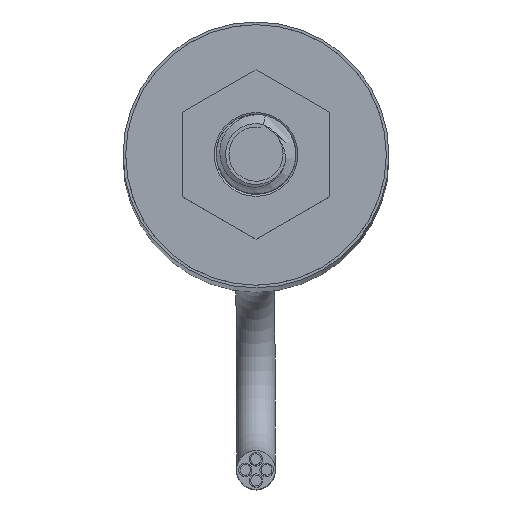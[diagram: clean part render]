
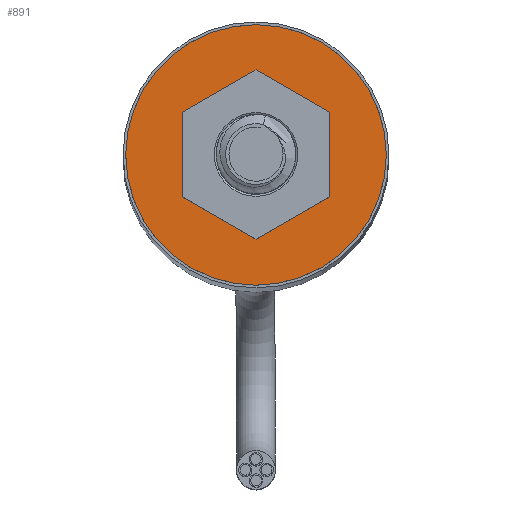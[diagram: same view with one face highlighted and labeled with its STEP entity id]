
A CAD part, top view. The second image highlights one B-rep face of the part: STEP entity #891.
In plain terms, the highlighted planar face has unit normal (0, 0, 1).
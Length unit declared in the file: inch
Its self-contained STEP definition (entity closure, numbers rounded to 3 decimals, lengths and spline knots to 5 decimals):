
#65=FACE_BOUND('',#181,.T.);
#83=PLANE('',#1126);
#118=FACE_OUTER_BOUND('',#180,.T.);
#180=EDGE_LOOP('',(#604));
#181=EDGE_LOOP('',(#605));
#352=CIRCLE('',#1121,0.11);
#355=CIRCLE('',#1125,0.245);
#402=VERTEX_POINT('',#1524);
#405=VERTEX_POINT('',#1532);
#478=EDGE_CURVE('',#402,#402,#352,.T.);
#483=EDGE_CURVE('',#405,#405,#355,.T.);
#604=ORIENTED_EDGE('',*,*,#483,.T.);
#605=ORIENTED_EDGE('',*,*,#478,.T.);
#891=ADVANCED_FACE('',(#118,#65),#83,.T.);
#1121=AXIS2_PLACEMENT_3D('',#1525,#1250,#1251);
#1125=AXIS2_PLACEMENT_3D('',#1534,#1260,#1261);
#1126=AXIS2_PLACEMENT_3D('',#1535,#1262,#1263);
#1250=DIRECTION('center_axis',(0.,0.,
-1.));
#1251=DIRECTION('ref_axis',(1.,-0.001,0.));
#1260=DIRECTION('center_axis',(0.,0.,
1.));
#1261=DIRECTION('ref_axis',(1.,-0.001,0.));
#1262=DIRECTION('center_axis',(0.,0.,
1.));
#1263=DIRECTION('ref_axis',(1.,-0.001,0.));
#1524=CARTESIAN_POINT('',(-0.11,0.00008,0.));
#1525=CARTESIAN_POINT('Origin',(0.,0.,
0.));
#1532=CARTESIAN_POINT('',(-0.245,0.00019,0.));
#1534=CARTESIAN_POINT('Origin',(0.,0.,
0.));
#1535=CARTESIAN_POINT('Origin',(0.,0.,
0.));
